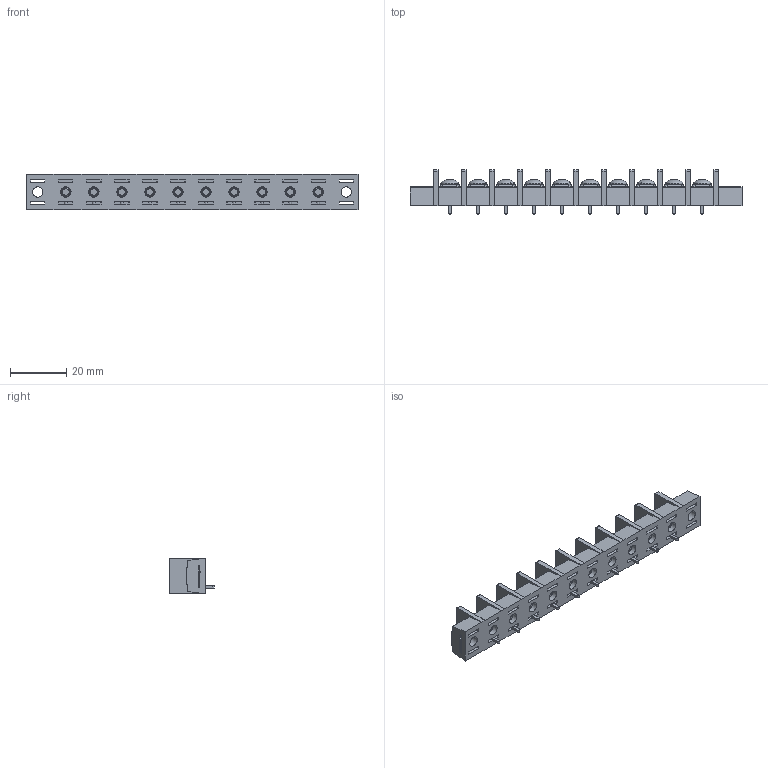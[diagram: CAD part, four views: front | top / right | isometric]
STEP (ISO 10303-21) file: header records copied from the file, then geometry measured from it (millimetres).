
FILE_DESCRIPTION(/* description */ ('Alibre Inc.'),/* implementation_level */ '2;1');
FILE_NAME(/* name */ 'export0',/* time_stamp */ '2015-10-22T20:08:41+09:00',/* author */ (''),/* organization */ (''),/* preprocessor_version */ 'ST-DEVELOPER v14',/* originating_system */ 'Alibre',/* authorisation */ '');
FILE_SCHEMA (('CONFIG_CONTROL_DESIGN'));
Length unit declared in the file: centimetre
Products named in the file (1): ID_1
Bounding box: 118.4 x 15.8 x 12.8 mm (x, y, z)
Volume: 10364.6 mm3; surface area: 11892.6 mm2
Topology: 1 solids, 171 shells, 3222 faces, 8272 edges, 5474 vertices
Faces by surface type: plane 2412, bspline 624, cylinder 106, cone 50, torus 20, sphere 10
Full cylindrical faces by diameter (mm): 3 x20, 3.7 x12, 4.6 x12, 6.3 x10
Entity records: 93113 total; most frequent: CARTESIAN_POINT 22477, ORIENTED_EDGE 16312, DIRECTION 9786, EDGE_CURVE 8156, VECTOR 6284, LINE 6284, VERTEX_POINT 5442, EDGE_LOOP 3540
